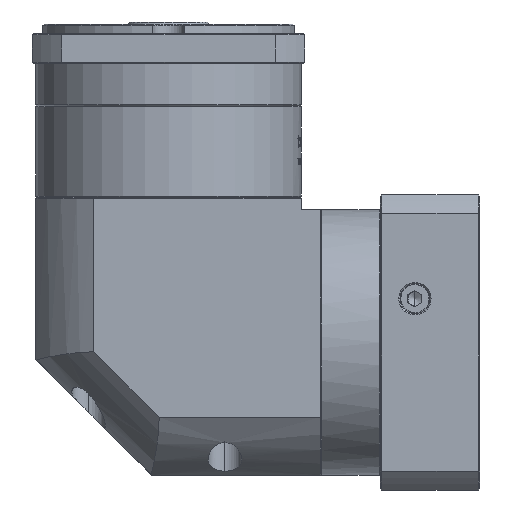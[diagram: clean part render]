
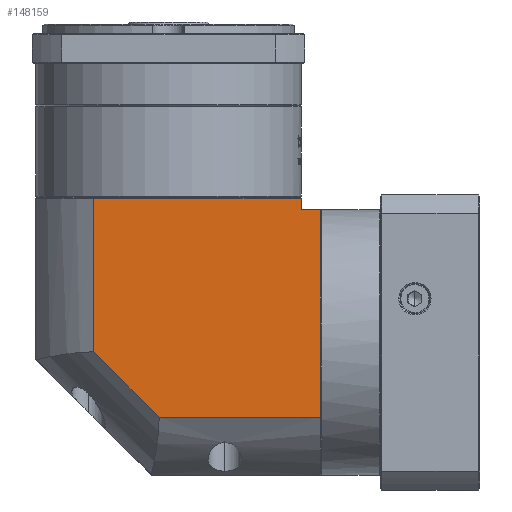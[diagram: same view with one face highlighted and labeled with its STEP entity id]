
A CAD part, left-side view. The second image highlights one B-rep face of the part: STEP entity #148159.
In plain terms, the highlighted planar face has unit normal (-1, 0, 0).
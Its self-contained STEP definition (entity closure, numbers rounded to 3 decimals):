
#1187 = DIRECTION ( 'NONE',  ( 0., 0., 1. ) ) ;
#3190 = CARTESIAN_POINT ( 'NONE',  ( -216.152, -66.343, 30.858 ) ) ;
#5012 = CARTESIAN_POINT ( 'NONE',  ( -216.152, -127.904, 120.758 ) ) ;
#7203 = EDGE_LOOP ( 'NONE', ( #138139, #8921, #155056, #133062, #131368, #96424, #156971 ) ) ;
#7337 = VERTEX_POINT ( 'NONE', #54027 ) ;
#8579 = DIRECTION ( 'NONE',  ( 0., 1., 0. ) ) ;
#8921 = ORIENTED_EDGE ( 'NONE', *, *, #135212, .F. ) ;
#9900 = DIRECTION ( 'NONE',  ( 1., 0., 0. ) ) ;
#11779 = VECTOR ( 'NONE', #77072, 1000. ) ;
#14561 = VERTEX_POINT ( 'NONE', #147669 ) ;
#23493 = LINE ( 'NONE', #147473, #152297 ) ;
#23624 = VECTOR ( 'NONE', #117210, 1000. ) ;
#24812 = LINE ( 'NONE', #69109, #155516 ) ;
#25470 = EDGE_CURVE ( 'NONE', #139698, #54472, #24812, .T. ) ;
#29354 = DIRECTION ( 'NONE',  ( 0., 0., 1. ) ) ;
#31382 = DIRECTION ( 'NONE',  ( 0., 0., -1. ) ) ;
#36815 = EDGE_CURVE ( 'NONE', #14561, #156659, #154359, .T. ) ;
#42659 = CARTESIAN_POINT ( 'NONE',  ( -216.152, -127.904, 120.758 ) ) ;
#44154 = CARTESIAN_POINT ( 'NONE',  ( -216.152, -66.343, 30.858 ) ) ;
#47584 = CARTESIAN_POINT ( 'NONE',  ( -216.152, -12.904, 132.258 ) ) ;
#52209 = CARTESIAN_POINT ( 'NONE',  ( -216.152, -127.904, 5.758 ) ) ;
#54027 = CARTESIAN_POINT ( 'NONE',  ( -216.152, -38.004, 59.196 ) ) ;
#54472 = VERTEX_POINT ( 'NONE', #86885 ) ;
#57055 = VERTEX_POINT ( 'NONE', #42659 ) ;
#57075 = EDGE_CURVE ( 'NONE', #7337, #14561, #148645, .T. ) ;
#65207 = VECTOR ( 'NONE', #1187, 1000. ) ;
#69109 = CARTESIAN_POINT ( 'NONE',  ( -216.152, -136.304, 132.258 ) ) ;
#69367 = DIRECTION ( 'NONE',  ( 0., 1., 0. ) ) ;
#77072 = DIRECTION ( 'NONE',  ( 0., -1., 0. ) ) ;
#85206 = PLANE ( 'NONE',  #152675 ) ;
#86885 = CARTESIAN_POINT ( 'NONE',  ( -216.152, -136.304, 30.858 ) ) ;
#86974 = LINE ( 'NONE', #3190, #23624 ) ;
#96424 = ORIENTED_EDGE ( 'NONE', *, *, #158450, .T. ) ;
#98717 = LINE ( 'NONE', #52209, #65207 ) ;
#99071 = CARTESIAN_POINT ( 'NONE',  ( -216.152, -136.304, 120.758 ) ) ;
#113218 = CARTESIAN_POINT ( 'NONE',  ( -216.152, -127.904, 125.758 ) ) ;
#116127 = VERTEX_POINT ( 'NONE', #44154 ) ;
#116249 = CARTESIAN_POINT ( 'NONE',  ( -216.152, -12.904, 125.758 ) ) ;
#117210 = DIRECTION ( 'NONE',  ( 0., 0.707, 0.707 ) ) ;
#118925 = VECTOR ( 'NONE', #29354, 1000. ) ;
#123517 = VECTOR ( 'NONE', #69367, 1000. ) ;
#130633 = CARTESIAN_POINT ( 'NONE',  ( -216.152, -38.004, 132.258 ) ) ;
#131368 = ORIENTED_EDGE ( 'NONE', *, *, #142627, .T. ) ;
#133062 = ORIENTED_EDGE ( 'NONE', *, *, #25470, .F. ) ;
#135212 = EDGE_CURVE ( 'NONE', #116127, #7337, #86974, .T. ) ;
#136680 = DIRECTION ( 'NONE',  ( 0., 1., 0. ) ) ;
#138139 = ORIENTED_EDGE ( 'NONE', *, *, #57075, .F. ) ;
#139698 = VERTEX_POINT ( 'NONE', #99071 ) ;
#141508 = LINE ( 'NONE', #5012, #123517 ) ;
#142627 = EDGE_CURVE ( 'NONE', #139698, #57055, #141508, .T. ) ;
#147473 = CARTESIAN_POINT ( 'NONE',  ( -216.152, -12.904, 30.858 ) ) ;
#147669 = CARTESIAN_POINT ( 'NONE',  ( -216.152, -38.004, 125.758 ) ) ;
#148159 = ADVANCED_FACE ( 'NONE', ( #159390 ), #85206, .F. ) ;
#148645 = LINE ( 'NONE', #130633, #118925 ) ;
#152297 = VECTOR ( 'NONE', #8579, 1000. ) ;
#152675 = AXIS2_PLACEMENT_3D ( 'NONE', #47584, #9900, #136680 ) ;
#154359 = LINE ( 'NONE', #116249, #11779 ) ;
#155056 = ORIENTED_EDGE ( 'NONE', *, *, #160301, .F. ) ;
#155516 = VECTOR ( 'NONE', #31382, 1000. ) ;
#156659 = VERTEX_POINT ( 'NONE', #113218 ) ;
#156971 = ORIENTED_EDGE ( 'NONE', *, *, #36815, .F. ) ;
#158450 = EDGE_CURVE ( 'NONE', #57055, #156659, #98717, .T. ) ;
#159390 = FACE_OUTER_BOUND ( 'NONE', #7203, .T. ) ;
#160301 = EDGE_CURVE ( 'NONE', #54472, #116127, #23493, .T. ) ;
